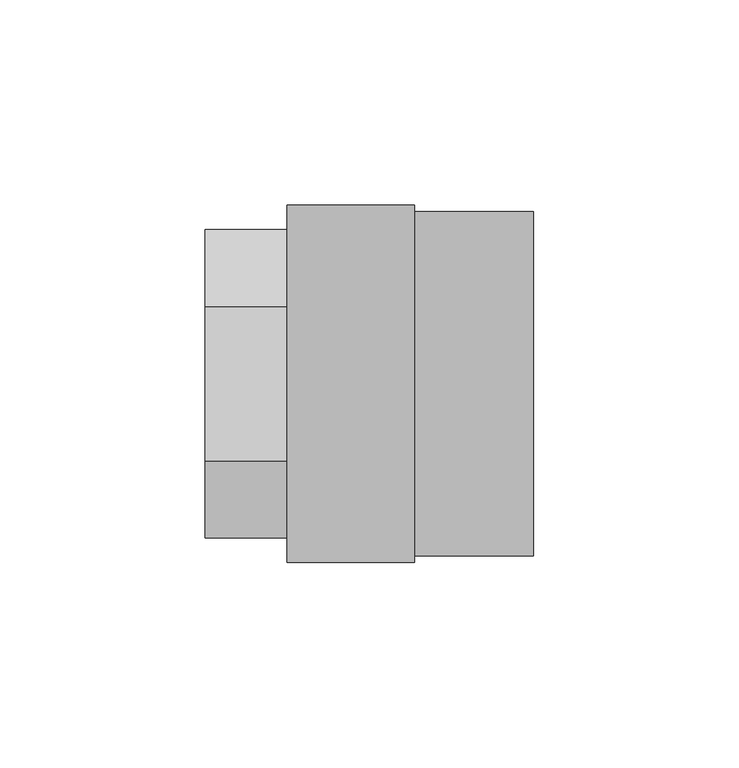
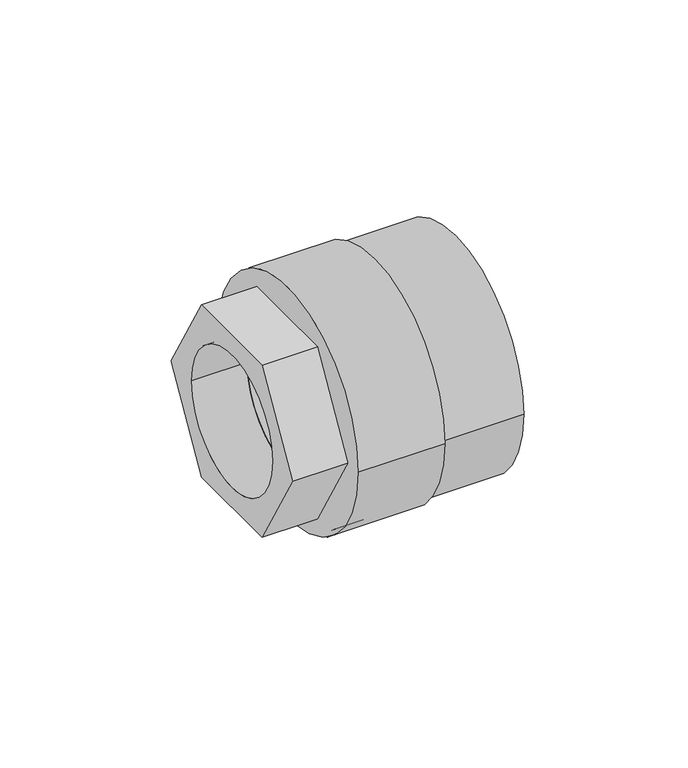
"""IFC4 building model written with IfcOpenShell, lengths in millimetres: pipe fitting geometry, NIRON RED termofusion roscado enlace rosca hembra hexagonal : Estándar."""

from ifc_helpers import new_model, si_unit, frame, origin, place, context, project, spatial, polyline, circle_curve, source, transform, mapped, element, save
from ifc_brep_helpers import plane_surface, cylinder_surface, revolved_surface, advanced_brep


def pipe_fitting_e48c4d48(model_context):
    return source(origin(), model_context, "Body", "AdvancedBrep", [
        advanced_brep(
        [(51.0, 43.5, 0.0), (51.0, -43.5, 0.0), (20.0, 43.5, 0.0), (20.0, -43.5, 0.0), (20.0, -25.0, 0.0), (20.0, 25.0, 0.0), (23.7, 25.0, 0.0), (23.7, -25.0, 0.0)],
        [
            (0, 1, circle_curve(frame((51.0, 0.0, 0.0), z_axis=(1.0, 0.0, 0.0), x_axis=(0.0, -1.0, 0.0)), 43.5)),
            (1, 0, circle_curve(frame((51.0, 0.0, 0.0), z_axis=(1.0, 0.0, 0.0), x_axis=(0.0, -1.0, 0.0)), 43.5)),
            (2, 3, circle_curve(frame((20.0, 0.0, 0.0), z_axis=(-1.0, 0.0, 0.0), x_axis=(0.0, -1.0, 0.0)), 43.5)),
            (3, 2, circle_curve(frame((20.0, 0.0, 0.0), z_axis=(-1.0, 0.0, 0.0), x_axis=(0.0, -1.0, 0.0)), 43.5)),
            (4, 5, circle_curve(frame((20.0, 0.0, 0.0), z_axis=(1.0, 0.0, 0.0), x_axis=(0.0, -1.0, 0.0)), 25.0)),
            (5, 4, circle_curve(frame((20.0, 0.0, 0.0), z_axis=(1.0, 0.0, 0.0), x_axis=(0.0, -1.0, 0.0)), 25.0)),
            (1, 3),
            (2, 0),
            (6, 7, circle_curve(frame((23.7, 0.0, 0.0), z_axis=(-1.0, 0.0, 0.0), x_axis=(0.0, -1.0, 0.0)), 25.0)),
            (7, 6, circle_curve(frame((23.7, 0.0, 0.0), z_axis=(-1.0, 0.0, 0.0), x_axis=(0.0, -1.0, 0.0)), 25.0)),
            (6, 5),
            (4, 7),
        ],
        [
            plane_surface(frame((51.0, -43.5, 0.0), z_axis=(1.0, 0.0, 0.0), x_axis=(0.0, 0.0, -1.0))),
            plane_surface(frame((20.0, -43.5, 0.0), z_axis=(-1.0, 0.0, 0.0), x_axis=(0.0, 0.0, 1.0))),
            cylinder_surface(frame((51.0, 0.0, 0.0), z_axis=(-1.0, 0.0, 0.0), x_axis=(0.0, -1.0, 0.0)), 43.5),
            plane_surface(frame((23.7, -25.0, 0.0), z_axis=(-1.0, 0.0, 0.0), x_axis=(0.0, 0.0, -1.0))),
            revolved_surface(polyline([(20.0, -25.0, 0.0), (23.7, -25.0, 0.0)]), (23.7, 0.0, 0.0), (-1.0, 0.0, 0.0)),
        ],
        [
            (0, [[1, 2]]),
            (1, [[3, 4], [5, 6]]),
            (2, [[-2, 7, -3, 8]]),
            (2, [[-1, -8, -4, -7]]),
            (3, [[9, 10]]),
            (4, [[-9, 11, -5, 12]]),
            (4, [[-10, -12, -6, -11]]),
        ],
    ),
        advanced_brep(
        [(20.0, 42.0, 0.0), (20.0, -42.0, 0.0), (20.0, -25.0, 0.0), (20.0, 25.0, 0.0), (80.0, 42.0, 0.0), (80.0, -42.0, 0.0), (23.7, 25.0, 0.0), (23.7, -25.0, 0.0)],
        [
            (0, 1, circle_curve(frame((20.0, 0.0, 0.0), z_axis=(-1.0, 0.0, 0.0), x_axis=(0.0, -1.0, 0.0)), 42.0)),
            (1, 0, circle_curve(frame((20.0, 0.0, 0.0), z_axis=(-1.0, 0.0, 0.0), x_axis=(0.0, -1.0, 0.0)), 42.0)),
            (2, 3, circle_curve(frame((20.0, 0.0, 0.0), z_axis=(1.0, 0.0, 0.0), x_axis=(0.0, -1.0, 0.0)), 25.0)),
            (3, 2, circle_curve(frame((20.0, 0.0, 0.0), z_axis=(1.0, 0.0, 0.0), x_axis=(0.0, -1.0, 0.0)), 25.0)),
            (4, 5, circle_curve(frame((80.0, 0.0, 0.0), z_axis=(1.0, 0.0, 0.0), x_axis=(0.0, -1.0, 0.0)), 42.0)),
            (5, 4, circle_curve(frame((80.0, 0.0, 0.0), z_axis=(1.0, 0.0, 0.0), x_axis=(0.0, -1.0, 0.0)), 42.0)),
            (0, 4),
            (5, 1),
            (6, 7, circle_curve(frame((23.7, 0.0, 0.0), z_axis=(-1.0, 0.0, 0.0), x_axis=(0.0, -1.0, 0.0)), 25.0)),
            (7, 6, circle_curve(frame((23.7, 0.0, 0.0), z_axis=(-1.0, 0.0, 0.0), x_axis=(0.0, -1.0, 0.0)), 25.0)),
            (6, 3),
            (2, 7),
        ],
        [
            plane_surface(frame((20.0, -42.0, 0.0), z_axis=(-1.0, 0.0, 0.0), x_axis=(0.0, 0.0, 1.0))),
            plane_surface(frame((80.0, -42.0, 0.0), z_axis=(1.0, 0.0, 0.0), x_axis=(0.0, 0.0, -1.0))),
            cylinder_surface(frame((80.0, 0.0, 0.0), z_axis=(-1.0, 0.0, 0.0), x_axis=(0.0, -1.0, 0.0)), 42.0),
            plane_surface(frame((23.7, -25.0, 0.0), z_axis=(-1.0, 0.0, 0.0), x_axis=(0.0, 0.0, -1.0))),
            revolved_surface(polyline([(20.0, -25.0, 0.0), (23.7, -25.0, 0.0)]), (23.7, 0.0, 0.0), (-1.0, 0.0, 0.0)),
        ],
        [
            (0, [[1, 2], [3, 4]]),
            (1, [[5, 6]]),
            (2, [[-1, 7, -6, 8]]),
            (2, [[-2, -8, -5, -7]]),
            (3, [[9, 10]]),
            (4, [[-9, 11, -3, 12]]),
            (4, [[-10, -12, -4, -11]]),
        ],
    ),
        advanced_brep(
        [(45.0, -18.7638837, -32.5), (45.0, 18.7638837, -32.5), (45.0, 37.5277675, 0.0), (45.0, 18.7638837, 32.5), (45.0, -18.7638837, 32.5), (45.0, -37.5277675, 0.0), (0.0, -18.7638837, -32.5), (0.0, -37.5277675, 0.0), (0.0, -18.7638837, 32.5), (0.0, 18.7638837, 32.5), (0.0, 37.5277675, 0.0), (0.0, 18.7638837, -32.5), (0.0, -25.0, 0.0), (0.0, 25.0, 0.0), (23.7, 25.0, 0.0), (23.7, -25.0, 0.0)],
        [
            (0, 1),
            (1, 2),
            (2, 3),
            (3, 4),
            (4, 5),
            (5, 0),
            (6, 7),
            (7, 8),
            (8, 9),
            (9, 10),
            (10, 11),
            (11, 6),
            (12, 13, circle_curve(frame((0.0, 0.0, 0.0), z_axis=(1.0, 0.0, 0.0), x_axis=(0.0, -1.0, 0.0)), 25.0)),
            (13, 12, circle_curve(frame((0.0, 0.0, 0.0), z_axis=(1.0, 0.0, 0.0), x_axis=(0.0, -1.0, 0.0)), 25.0)),
            (0, 6),
            (11, 1),
            (10, 2),
            (9, 3),
            (8, 4),
            (7, 5),
            (14, 15, circle_curve(frame((23.7, 0.0, 0.0), z_axis=(-1.0, 0.0, 0.0), x_axis=(0.0, -1.0, 0.0)), 25.0)),
            (15, 14, circle_curve(frame((23.7, 0.0, 0.0), z_axis=(-1.0, 0.0, 0.0), x_axis=(0.0, -1.0, 0.0)), 25.0)),
            (14, 13),
            (12, 15),
        ],
        [
            plane_surface(frame((45.0, 0.0, 0.0), z_axis=(1.0, 0.0, 0.0), x_axis=(0.0, 0.0, 1.0))),
            plane_surface(frame((0.0, 0.0, 0.0), z_axis=(-1.0, 0.0, 0.0), x_axis=(0.0, 0.0, 1.0))),
            plane_surface(frame((45.0, -18.7638837, -32.5), z_axis=(0.0, 0.0, -1.0), x_axis=(-1.0, 0.0, 0.0))),
            plane_surface(frame((45.0, 18.7638837, -32.5), z_axis=(0.0, 0.8660254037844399, -0.49999999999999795), x_axis=(-1.0, 0.0, 0.0))),
            plane_surface(frame((45.0, 37.5277675, 0.0), z_axis=(0.0, 0.8660254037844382, 0.5000000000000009), x_axis=(-1.0, 0.0, 0.0))),
            plane_surface(frame((45.0, 18.7638837, 32.5), z_axis=(0.0, 0.0, 1.0), x_axis=(-1.0, 0.0, 0.0))),
            plane_surface(frame((45.0, -18.7638837, 32.5), z_axis=(0.0, -0.8660254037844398, 0.49999999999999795), x_axis=(-1.0, 0.0, 0.0))),
            plane_surface(frame((45.0, -37.5277675, 0.0), z_axis=(0.0, -0.866025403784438, -0.500000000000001), x_axis=(-1.0, 0.0, 0.0))),
            plane_surface(frame((23.7, -25.0, 0.0), z_axis=(-1.0, 0.0, 0.0), x_axis=(0.0, 0.0, -1.0))),
            revolved_surface(polyline([(0.0, -25.0, 0.0), (23.7, -25.0, 0.0)]), (23.7, 0.0, 0.0), (-1.0, 0.0, 0.0)),
        ],
        [
            (0, [[1, 2, 3, 4, 5, 6]]),
            (1, [[7, 8, 9, 10, 11, 12], [13, 14]]),
            (2, [[-1, 15, -12, 16]]),
            (3, [[-2, -16, -11, 17]]),
            (4, [[-3, -17, -10, 18]]),
            (5, [[-4, -18, -9, 19]]),
            (6, [[-5, -19, -8, 20]]),
            (7, [[-6, -20, -7, -15]]),
            (8, [[21, 22]]),
            (9, [[-21, 23, -13, 24]]),
            (9, [[-22, -24, -14, -23]]),
        ],
    ),
    ])


if __name__ == "__main__":
    model = new_model("IFC4")
    model_context = context("Model", 3, world=origin())
    ifc_project = project(units=[si_unit("LENGTHUNIT", "METRE", prefix="MILLI")], contexts=[model_context])
    site = spatial("IfcSite", under=ifc_project)
    building = spatial("IfcBuilding", under=site)
    placement = place(None, origin())
    pipe_fitting_shape = pipe_fitting_e48c4d48(model_context)
    element("IfcPipeFitting", 1, ObjectType="NIRON RED termofusion roscado enlace rosca hembra hexagonal : Estándar", at=placement, inside=building, context=model_context, shape_type="MappedRepresentation", body=[
        mapped(pipe_fitting_shape, transform((0.0, 0.0, 0.0), x_axis=(1.0, 0.0, 0.0), y_axis=(0.0, 1.0, 0.0), z_axis=(0.0, 0.0, 1.0))),
    ])
    save(model, "model.ifc")
